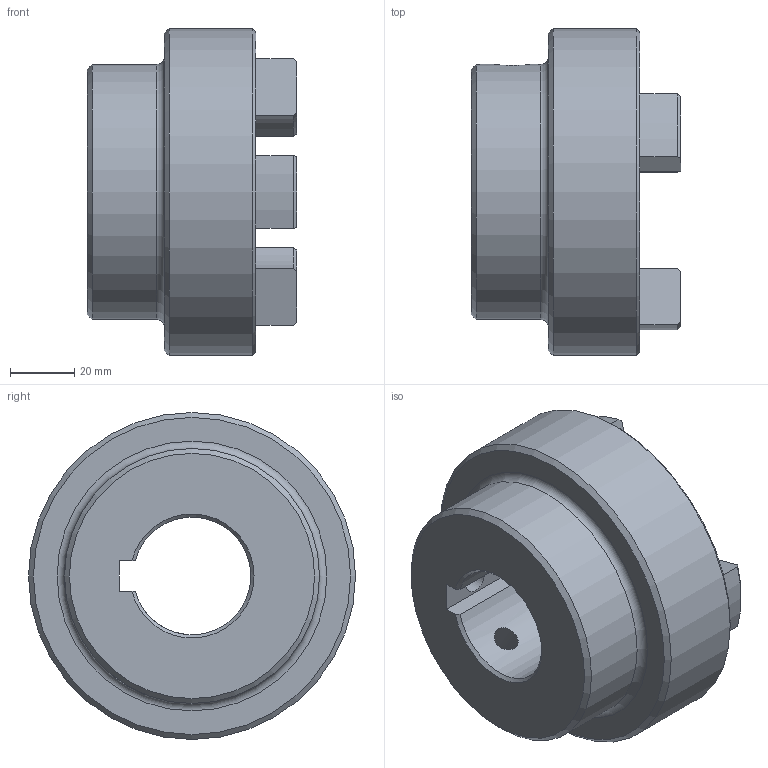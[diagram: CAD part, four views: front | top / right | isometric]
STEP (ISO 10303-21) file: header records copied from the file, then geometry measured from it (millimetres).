
FILE_DESCRIPTION (( 'STEP AP203' ), '1' );
FILE_NAME ('RC4.step', '2024-07-24T17:43:02', ( 'Adlan' ), ( '' ), 'SwSTEP 2.0', 'SolidWorks 2013', '' );
FILE_SCHEMA (( 'CONFIG_CONTROL_DESIGN' ));
Length unit declared in the file: inch
Products named in the file (1): RC4
Bounding box: 65.02 x 101.6 x 101.6 mm (x, y, z)
Volume: 237401.5 mm3; surface area: 41499.3 mm2
Topology: 1 solids, 1 shells, 67 faces, 168 edges, 105 vertices
Faces by surface type: cylinder 26, plane 16, torus 13, cone 12
Full cylindrical faces by diameter (mm): 7.937 x2, 79.248 x1, 101.6 x1
Entity records: 2277 total; most frequent: CARTESIAN_POINT 602, DIRECTION 354, ORIENTED_EDGE 310, EDGE_CURVE 155, AXIS2_PLACEMENT_3D 142, VERTEX_POINT 102, EDGE_LOOP 85, CIRCLE 74
